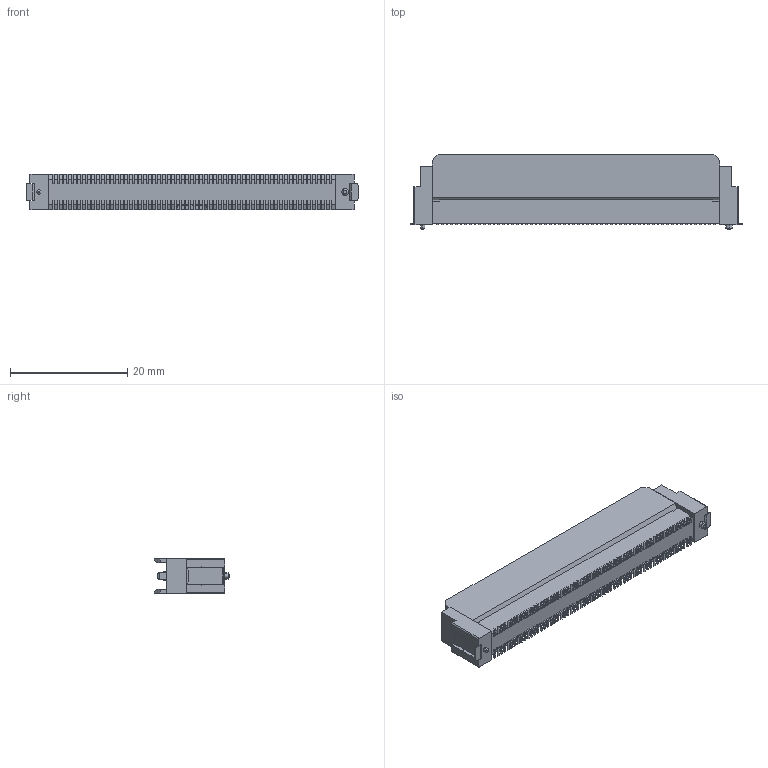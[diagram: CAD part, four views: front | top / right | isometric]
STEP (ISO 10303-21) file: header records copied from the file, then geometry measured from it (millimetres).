
FILE_DESCRIPTION (( 'STEP AP203' ), '1' );
FILE_NAME ('DFJ-PC120-S931120D(M)-FA.STEP', '2021-09-07T06:07:08', ( '' ), ( '' ), 'SwSTEP 2.0', 'SolidWorks 2018', '' );
FILE_SCHEMA (( 'CONFIG_CONTROL_DESIGN' ));
Length unit declared in the file: millimetre
Products named in the file (1): DFJ-PC120-S931120D(M)-FA
Bounding box: 56.6 x 12.8 x 6 mm (x, y, z)
Volume: 2356.5 mm3; surface area: 3405.6 mm2
Topology: 1 solids, 1 shells, 1554 faces, 4238 edges, 2802 vertices
Faces by surface type: plane 1252, cylinder 284, cone 12, bspline 4, torus 2
Entity records: 48869 total; most frequent: CARTESIAN_POINT 8765, ORIENTED_EDGE 8468, DIRECTION 8100, EDGE_CURVE 4234, VECTOR 3410, LINE 3410, VERTEX_POINT 2802, AXIS2_PLACEMENT_3D 2345
